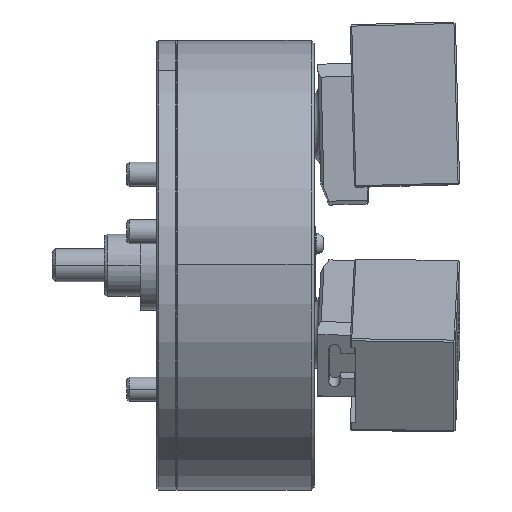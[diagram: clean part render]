
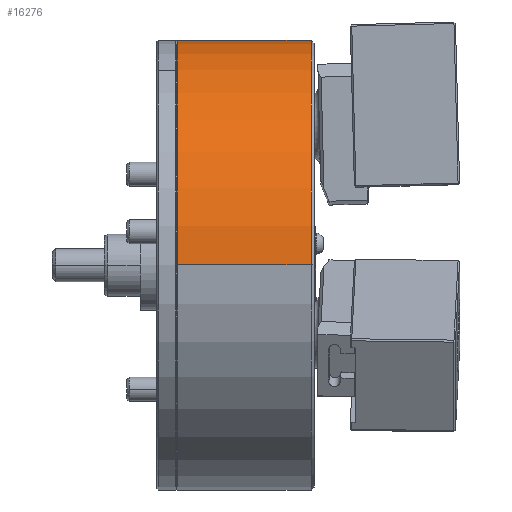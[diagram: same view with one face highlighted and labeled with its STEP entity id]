
A CAD part, top view. The second image highlights one B-rep face of the part: STEP entity #16276.
In plain terms, the highlighted cylindrical face has radius 150 mm (diameter 300 mm), a partial arc.
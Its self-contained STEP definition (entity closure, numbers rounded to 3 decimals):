
#1885 = DIRECTION ( 'NONE',  ( 1., 0., 0. ) ) ;
#4420 = DIRECTION ( 'NONE',  ( 1., 0., 0. ) ) ;
#9231 = LINE ( 'NONE', #35737, #50312 ) ;
#10982 = VERTEX_POINT ( 'NONE', #19149 ) ;
#11003 = CIRCLE ( 'NONE', #49024, 150. ) ;
#11123 = DIRECTION ( 'NONE',  ( 0., 0., -1. ) ) ;
#11186 = EDGE_CURVE ( 'NONE', #41957, #22919, #11948, .T. ) ;
#11948 = CIRCLE ( 'NONE', #31386, 150. ) ;
#16276 = ADVANCED_FACE ( 'NONE', ( #37809 ), #36549, .T. ) ;
#16487 = EDGE_CURVE ( 'NONE', #26442, #41957, #9231, .T. ) ;
#17249 = AXIS2_PLACEMENT_3D ( 'NONE', #30687, #35061, #11123 ) ;
#17463 = EDGE_CURVE ( 'NONE', #26442, #10982, #11003, .T. ) ;
#19149 = CARTESIAN_POINT ( 'NONE',  ( -91.2, 0., 150. ) ) ;
#22919 = VERTEX_POINT ( 'NONE', #31498 ) ;
#25547 = CARTESIAN_POINT ( 'NONE',  ( -2., 0., 0. ) ) ;
#26442 = VERTEX_POINT ( 'NONE', #50938 ) ;
#27735 = ORIENTED_EDGE ( 'NONE', *, *, #11186, .F. ) ;
#28124 = CARTESIAN_POINT ( 'NONE',  ( -91.2, 0., 0. ) ) ;
#29509 = DIRECTION ( 'NONE',  ( 0., 0., -1. ) ) ;
#29842 = LINE ( 'NONE', #32431, #40536 ) ;
#30687 = CARTESIAN_POINT ( 'NONE',  ( 63.843, 0., 0. ) ) ;
#30751 = EDGE_CURVE ( 'NONE', #10982, #22919, #29842, .T. ) ;
#31386 = AXIS2_PLACEMENT_3D ( 'NONE', #25547, #1885, #29509 ) ;
#31498 = CARTESIAN_POINT ( 'NONE',  ( -2., 0., 150. ) ) ;
#32111 = DIRECTION ( 'NONE',  ( 0., 0., -1. ) ) ;
#32431 = CARTESIAN_POINT ( 'NONE',  ( 63.843, 0., 150. ) ) ;
#32616 = DIRECTION ( 'NONE',  ( 1., 0., 0. ) ) ;
#32666 = ORIENTED_EDGE ( 'NONE', *, *, #16487, .F. ) ;
#33034 = EDGE_LOOP ( 'NONE', ( #34173, #50715, #27735, #32666 ) ) ;
#34173 = ORIENTED_EDGE ( 'NONE', *, *, #17463, .T. ) ;
#35061 = DIRECTION ( 'NONE',  ( 1., 0., 0. ) ) ;
#35737 = CARTESIAN_POINT ( 'NONE',  ( 63.843, 0., -150. ) ) ;
#35903 = DIRECTION ( 'NONE',  ( 1., 0., 0. ) ) ;
#36549 = CYLINDRICAL_SURFACE ( 'NONE', #17249, 150. ) ;
#37809 = FACE_OUTER_BOUND ( 'NONE', #33034, .T. ) ;
#40536 = VECTOR ( 'NONE', #32616, 1000. ) ;
#41957 = VERTEX_POINT ( 'NONE', #43145 ) ;
#43145 = CARTESIAN_POINT ( 'NONE',  ( -2., 0., -150. ) ) ;
#49024 = AXIS2_PLACEMENT_3D ( 'NONE', #28124, #4420, #32111 ) ;
#50312 = VECTOR ( 'NONE', #35903, 1000. ) ;
#50715 = ORIENTED_EDGE ( 'NONE', *, *, #30751, .T. ) ;
#50938 = CARTESIAN_POINT ( 'NONE',  ( -91.2, 0., -150. ) ) ;
